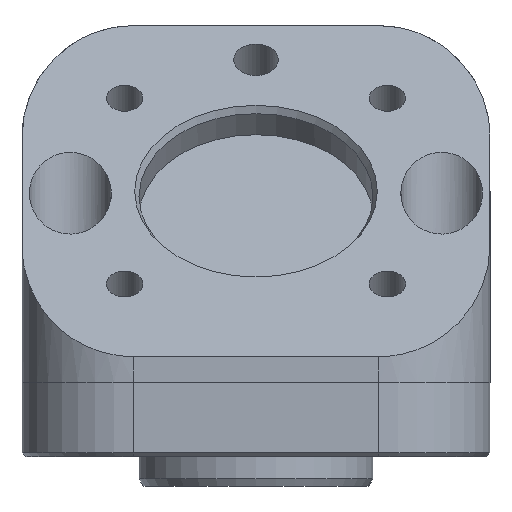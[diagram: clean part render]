
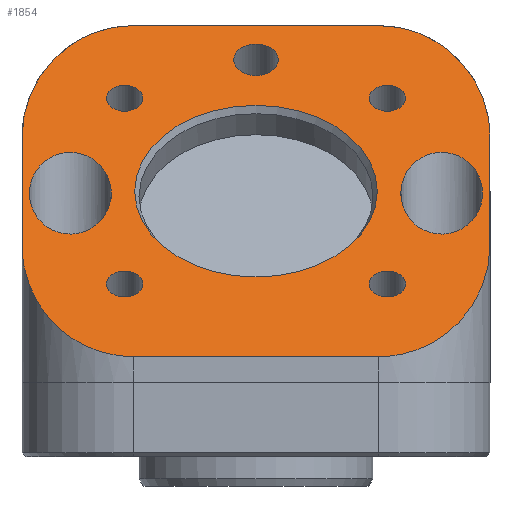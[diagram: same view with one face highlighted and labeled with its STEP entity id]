
A CAD part, front view. The second image highlights one B-rep face of the part: STEP entity #1854.
In plain terms, the highlighted planar face has unit normal (0, -0.707, 0.707) as drawn and (-0.707, 0.707, 0) by its records, which use the part's own axes.
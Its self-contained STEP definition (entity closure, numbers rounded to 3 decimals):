
#19=ELLIPSE('',#2080,21.213,15.);
#26=ELLIPSE('',#2101,21.213,15.);
#27=ELLIPSE('',#2104,21.213,15.);
#28=ELLIPSE('',#2123,21.213,15.);
#29=ELLIPSE('',#2136,7.778,5.5);
#30=ELLIPSE('',#2137,7.778,5.5);
#80=FACE_BOUND('',#394,.T.);
#81=FACE_BOUND('',#395,.T.);
#82=FACE_BOUND('',#396,.T.);
#83=FACE_BOUND('',#397,.T.);
#84=FACE_BOUND('',#398,.T.);
#85=FACE_BOUND('',#399,.T.);
#86=FACE_BOUND('',#400,.T.);
#87=FACE_BOUND('',#401,.T.);
#168=PLANE('',#2124);
#247=FACE_OUTER_BOUND('',#393,.T.);
#393=EDGE_LOOP('',(#1575,#1576,#1577,#1578,#1579,#1580,#1581,#1582));
#394=EDGE_LOOP('',(#1583));
#395=EDGE_LOOP('',(#1584,#1585));
#396=EDGE_LOOP('',(#1586,#1587));
#397=EDGE_LOOP('',(#1588,#1589));
#398=EDGE_LOOP('',(#1590,#1591));
#399=EDGE_LOOP('',(#1592,#1593));
#400=EDGE_LOOP('',(#1594));
#401=EDGE_LOOP('',(#1595));
#555=CIRCLE('',#2125,16.327);
#556=CIRCLE('',#2126,3.);
#557=CIRCLE('',#2127,3.);
#558=CIRCLE('',#2128,2.459);
#559=CIRCLE('',#2129,2.459);
#560=CIRCLE('',#2130,2.459);
#561=CIRCLE('',#2131,2.459);
#562=CIRCLE('',#2132,2.459);
#563=CIRCLE('',#2133,2.459);
#564=CIRCLE('',#2134,2.459);
#565=CIRCLE('',#2135,2.459);
#664=LINE('',#3165,#760);
#670=LINE('',#3212,#766);
#678=LINE('',#3262,#774);
#679=LINE('',#3263,#775);
#760=VECTOR('',#2547,10.);
#766=VECTOR('',#2593,10.);
#774=VECTOR('',#2645,10.);
#775=VECTOR('',#2646,10.);
#889=VERTEX_POINT('',#3148);
#890=VERTEX_POINT('',#3149);
#896=VERTEX_POINT('',#3163);
#915=VERTEX_POINT('',#3205);
#916=VERTEX_POINT('',#3207);
#917=VERTEX_POINT('',#3211);
#920=VERTEX_POINT('',#3219);
#937=VERTEX_POINT('',#3258);
#938=VERTEX_POINT('',#3264);
#939=VERTEX_POINT('',#3266);
#940=VERTEX_POINT('',#3267);
#941=VERTEX_POINT('',#3270);
#942=VERTEX_POINT('',#3271);
#943=VERTEX_POINT('',#3274);
#944=VERTEX_POINT('',#3275);
#945=VERTEX_POINT('',#3278);
#946=VERTEX_POINT('',#3279);
#947=VERTEX_POINT('',#3282);
#948=VERTEX_POINT('',#3283);
#949=VERTEX_POINT('',#3286);
#950=VERTEX_POINT('',#3288);
#1118=EDGE_CURVE('',#889,#890,#19,.T.);
#1126=EDGE_CURVE('',#889,#896,#664,.T.);
#1147=EDGE_CURVE('',#915,#916,#26,.T.);
#1149=EDGE_CURVE('',#917,#916,#670,.T.);
#1153=EDGE_CURVE('',#917,#920,#27,.T.);
#1174=EDGE_CURVE('',#937,#896,#28,.T.);
#1175=EDGE_CURVE('',#937,#920,#678,.T.);
#1176=EDGE_CURVE('',#890,#915,#679,.T.);
#1177=EDGE_CURVE('',#938,#938,#555,.T.);
#1178=EDGE_CURVE('',#939,#940,#556,.T.);
#1179=EDGE_CURVE('',#940,#939,#557,.T.);
#1180=EDGE_CURVE('',#941,#942,#558,.T.);
#1181=EDGE_CURVE('',#942,#941,#559,.T.);
#1182=EDGE_CURVE('',#943,#944,#560,.T.);
#1183=EDGE_CURVE('',#944,#943,#561,.T.);
#1184=EDGE_CURVE('',#945,#946,#562,.T.);
#1185=EDGE_CURVE('',#946,#945,#563,.T.);
#1186=EDGE_CURVE('',#947,#948,#564,.T.);
#1187=EDGE_CURVE('',#948,#947,#565,.T.);
#1188=EDGE_CURVE('',#949,#949,#29,.T.);
#1189=EDGE_CURVE('',#950,#950,#30,.T.);
#1575=ORIENTED_EDGE('',*,*,#1118,.F.);
#1576=ORIENTED_EDGE('',*,*,#1126,.T.);
#1577=ORIENTED_EDGE('',*,*,#1174,.F.);
#1578=ORIENTED_EDGE('',*,*,#1175,.T.);
#1579=ORIENTED_EDGE('',*,*,#1153,.F.);
#1580=ORIENTED_EDGE('',*,*,#1149,.T.);
#1581=ORIENTED_EDGE('',*,*,#1147,.F.);
#1582=ORIENTED_EDGE('',*,*,#1176,.F.);
#1583=ORIENTED_EDGE('',*,*,#1177,.F.);
#1584=ORIENTED_EDGE('',*,*,#1178,.T.);
#1585=ORIENTED_EDGE('',*,*,#1179,.T.);
#1586=ORIENTED_EDGE('',*,*,#1180,.T.);
#1587=ORIENTED_EDGE('',*,*,#1181,.T.);
#1588=ORIENTED_EDGE('',*,*,#1182,.T.);
#1589=ORIENTED_EDGE('',*,*,#1183,.T.);
#1590=ORIENTED_EDGE('',*,*,#1184,.T.);
#1591=ORIENTED_EDGE('',*,*,#1185,.T.);
#1592=ORIENTED_EDGE('',*,*,#1186,.T.);
#1593=ORIENTED_EDGE('',*,*,#1187,.T.);
#1594=ORIENTED_EDGE('',*,*,#1188,.T.);
#1595=ORIENTED_EDGE('',*,*,#1189,.T.);
#1854=ADVANCED_FACE('',(#247,#80,#81,#82,#83,#84,#85,#86,#87),#168,.T.);
#2080=AXIS2_PLACEMENT_3D('',#3150,#2535,#2536);
#2101=AXIS2_PLACEMENT_3D('',#3208,#2588,#2589);
#2104=AXIS2_PLACEMENT_3D('',#3220,#2599,#2600);
#2123=AXIS2_PLACEMENT_3D('',#3260,#2641,#2642);
#2124=AXIS2_PLACEMENT_3D('',#3261,#2643,#2644);
#2125=AXIS2_PLACEMENT_3D('',#3265,#2647,#2648);
#2126=AXIS2_PLACEMENT_3D('',#3268,#2649,#2650);
#2127=AXIS2_PLACEMENT_3D('',#3269,#2651,#2652);
#2128=AXIS2_PLACEMENT_3D('',#3272,#2653,#2654);
#2129=AXIS2_PLACEMENT_3D('',#3273,#2655,#2656);
#2130=AXIS2_PLACEMENT_3D('',#3276,#2657,#2658);
#2131=AXIS2_PLACEMENT_3D('',#3277,#2659,#2660);
#2132=AXIS2_PLACEMENT_3D('',#3280,#2661,#2662);
#2133=AXIS2_PLACEMENT_3D('',#3281,#2663,#2664);
#2134=AXIS2_PLACEMENT_3D('',#3284,#2665,#2666);
#2135=AXIS2_PLACEMENT_3D('',#3285,#2667,#2668);
#2136=AXIS2_PLACEMENT_3D('',#3287,#2669,#2670);
#2137=AXIS2_PLACEMENT_3D('',#3289,#2671,#2672);
#2535=DIRECTION('center_axis',(0.707,-0.707,0.));
#2536=DIRECTION('ref_axis',(0.707,0.707,0.));
#2547=DIRECTION('',(-0.707,-0.707,0.));
#2588=DIRECTION('center_axis',(0.707,-0.707,0.));
#2589=DIRECTION('ref_axis',(0.707,0.707,0.));
#2593=DIRECTION('',(0.707,0.707,0.));
#2599=DIRECTION('center_axis',(0.707,-0.707,0.));
#2600=DIRECTION('ref_axis',(-0.707,-0.707,0.));
#2641=DIRECTION('center_axis',(0.707,-0.707,0.));
#2642=DIRECTION('ref_axis',(-0.707,-0.707,0.));
#2643=DIRECTION('center_axis',(-0.707,0.707,0.));
#2644=DIRECTION('ref_axis',(0.,0.,1.));
#2645=DIRECTION('',(0.,0.,1.));
#2646=DIRECTION('',(0.,0.,1.));
#2647=DIRECTION('center_axis',(-0.707,0.707,0.));
#2648=DIRECTION('ref_axis',(0.707,0.707,0.));
#2649=DIRECTION('center_axis',(0.707,-0.707,0.));
#2650=DIRECTION('ref_axis',(-0.707,-0.707,0.));
#2651=DIRECTION('center_axis',(0.707,-0.707,0.));
#2652=DIRECTION('ref_axis',(-0.707,-0.707,0.));
#2653=DIRECTION('center_axis',(0.707,-0.707,0.));
#2654=DIRECTION('ref_axis',(-0.707,-0.707,0.));
#2655=DIRECTION('center_axis',(0.707,-0.707,0.));
#2656=DIRECTION('ref_axis',(-0.707,-0.707,0.));
#2657=DIRECTION('center_axis',(0.707,-0.707,0.));
#2658=DIRECTION('ref_axis',(-0.707,-0.707,0.));
#2659=DIRECTION('center_axis',(0.707,-0.707,0.));
#2660=DIRECTION('ref_axis',(-0.707,-0.707,0.));
#2661=DIRECTION('center_axis',(0.707,-0.707,0.));
#2662=DIRECTION('ref_axis',(-0.707,-0.707,0.));
#2663=DIRECTION('center_axis',(0.707,-0.707,0.));
#2664=DIRECTION('ref_axis',(-0.707,-0.707,0.));
#2665=DIRECTION('center_axis',(0.707,-0.707,0.));
#2666=DIRECTION('ref_axis',(-0.707,-0.707,0.));
#2667=DIRECTION('center_axis',(0.707,-0.707,0.));
#2668=DIRECTION('ref_axis',(-0.707,-0.707,0.));
#2669=DIRECTION('center_axis',(0.707,-0.707,0.));
#2670=DIRECTION('ref_axis',(0.707,0.707,0.));
#2671=DIRECTION('center_axis',(0.707,-0.707,0.));
#2672=DIRECTION('ref_axis',(0.707,0.707,0.));
#3148=CARTESIAN_POINT('',(-22.452,33.,-31.5));
#3149=CARTESIAN_POINT('',(-7.452,48.,-16.5));
#3150=CARTESIAN_POINT('Origin',(-22.452,33.,-16.5));
#3163=CARTESIAN_POINT('',(-37.,18.452,-31.5));
#3165=CARTESIAN_POINT('',(-7.452,48.,-31.5));
#3205=CARTESIAN_POINT('',(-7.452,48.,16.5));
#3207=CARTESIAN_POINT('',(-22.452,33.,31.5));
#3208=CARTESIAN_POINT('Origin',(-22.452,33.,16.5));
#3211=CARTESIAN_POINT('',(-37.,18.452,31.5));
#3212=CARTESIAN_POINT('',(-7.452,48.,31.5));
#3219=CARTESIAN_POINT('',(-52.,3.452,16.5));
#3220=CARTESIAN_POINT('Origin',(-37.,18.452,16.5));
#3258=CARTESIAN_POINT('',(-52.,3.452,-16.5));
#3260=CARTESIAN_POINT('Origin',(-37.,18.452,-16.5));
#3261=CARTESIAN_POINT('Origin',(-52.,3.452,0.));
#3262=CARTESIAN_POINT('',(-52.,3.452,0.));
#3263=CARTESIAN_POINT('',(-7.452,48.,0.));
#3264=CARTESIAN_POINT('',(-41.271,14.181,0.));
#3265=CARTESIAN_POINT('Origin',(-29.726,25.726,0.));
#3266=CARTESIAN_POINT('',(-14.17,41.282,0.));
#3267=CARTESIAN_POINT('',(-9.927,45.525,0.));
#3268=CARTESIAN_POINT('Origin',(-12.048,43.404,0.));
#3269=CARTESIAN_POINT('Origin',(-12.048,43.404,0.));
#3270=CARTESIAN_POINT('',(-43.965,11.488,-17.678));
#3271=CARTESIAN_POINT('',(-40.488,14.965,-17.678));
#3272=CARTESIAN_POINT('Origin',(-42.226,13.226,-17.678));
#3273=CARTESIAN_POINT('Origin',(-42.226,13.226,-17.678));
#3274=CARTESIAN_POINT('',(-43.965,11.488,17.678));
#3275=CARTESIAN_POINT('',(-40.488,14.965,17.678));
#3276=CARTESIAN_POINT('Origin',(-42.226,13.226,17.678));
#3277=CARTESIAN_POINT('Origin',(-42.226,13.226,17.678));
#3278=CARTESIAN_POINT('',(-18.965,36.488,17.678));
#3279=CARTESIAN_POINT('',(-15.488,39.965,17.678));
#3280=CARTESIAN_POINT('Origin',(-17.226,38.226,17.678));
#3281=CARTESIAN_POINT('Origin',(-17.226,38.226,17.678));
#3282=CARTESIAN_POINT('',(-18.965,36.488,-17.678));
#3283=CARTESIAN_POINT('',(-15.488,39.965,-17.678));
#3284=CARTESIAN_POINT('Origin',(-17.226,38.226,-17.678));
#3285=CARTESIAN_POINT('Origin',(-17.226,38.226,-17.678));
#3286=CARTESIAN_POINT('',(-35.5,19.952,-25.));
#3287=CARTESIAN_POINT('Origin',(-30.,25.452,-25.));
#3288=CARTESIAN_POINT('',(-35.5,19.952,25.));
#3289=CARTESIAN_POINT('Origin',(-30.,25.452,25.));
